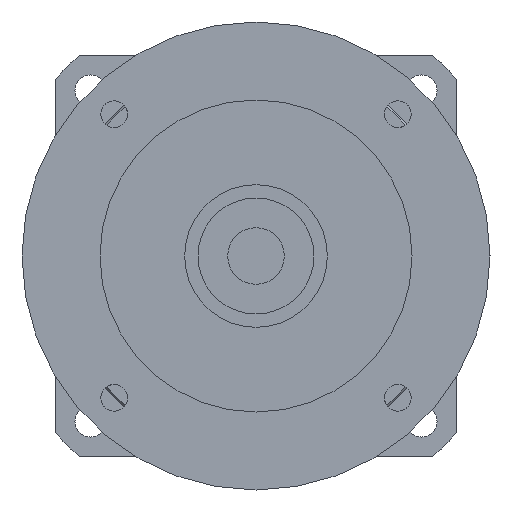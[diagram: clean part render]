
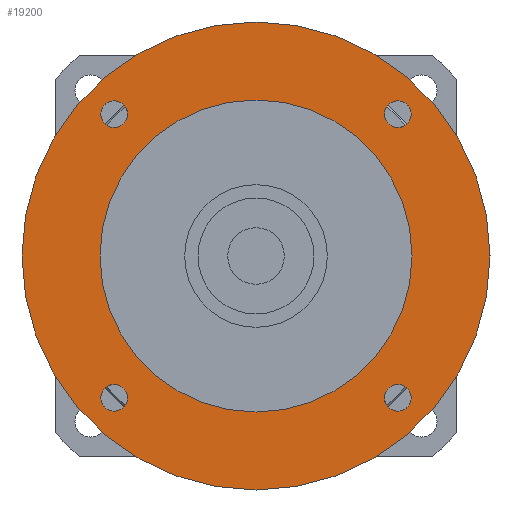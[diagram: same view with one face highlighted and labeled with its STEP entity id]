
A CAD part, left-side view. The second image highlights one B-rep face of the part: STEP entity #19200.
In plain terms, the highlighted planar face has unit normal (-1, 0, 0) as drawn and (0, 0, -1) by its records, which use the part's own axes.
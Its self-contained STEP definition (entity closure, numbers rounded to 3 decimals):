
#17780=CARTESIAN_POINT('',(31.82,-28.82,-124.));
#17790=VERTEX_POINT('',#17780);
#17960=CARTESIAN_POINT('',(31.82,-34.82,-124.));
#17970=VERTEX_POINT('',#17960);
#18000=CARTESIAN_POINT('',(31.82,-31.82,-124.));
#18010=DIRECTION('',(0.,0.,-1.));
#18020=DIRECTION('',(1.,0.,0.));
#18030=AXIS2_PLACEMENT_3D('',#18000,#18010,#18020);
#18040=CIRCLE('',#18030,3.);
#18050=CARTESIAN_POINT('',(34.82,-31.82,-124.));
#18060=VERTEX_POINT('',#18050);
#18070=EDGE_CURVE('',#18060,#17970,#18040,.T.);
#18090=EDGE_CURVE('',#17790,#18060,#18040,.T.);
#18140=CARTESIAN_POINT('',(0.,0.,
-124.));
#18150=DIRECTION('',(0.,0.,1.));
#18160=DIRECTION('',(-1.,0.,0.));
#18170=AXIS2_PLACEMENT_3D('',#18140,#18150,#18160);
#18180=PLANE('',#18170);
#18190=ORIENTED_EDGE('',*,*,#18070,.F.);
#18200=EDGE_CURVE('',#17970,#17790,#18040,.T.);
#18210=ORIENTED_EDGE('',*,*,#18200,.F.);
#18220=ORIENTED_EDGE('',*,*,#18090,.F.);
#18230=EDGE_LOOP('',(#18220,#18210,#18190));
#18240=FACE_BOUND('',#18230,.T.);
#18250=CARTESIAN_POINT('',(31.82,31.82,-124.));
#18260=DIRECTION('',(0.,0.,-1.));
#18270=DIRECTION('',(0.,1.,0.));
#18280=AXIS2_PLACEMENT_3D('',#18250,#18260,#18270);
#18290=CIRCLE('',#18280,3.);
#18300=CARTESIAN_POINT('',(31.82,34.82,-124.));
#18310=VERTEX_POINT('',#18300);
#18320=CARTESIAN_POINT('',(34.82,31.82,-124.));
#18330=VERTEX_POINT('',#18320);
#18340=EDGE_CURVE('',#18310,#18330,#18290,.T.);
#18350=ORIENTED_EDGE('',*,*,#18340,.F.);
#18360=CARTESIAN_POINT('',(28.82,31.82,-124.));
#18370=VERTEX_POINT('',#18360);
#18380=EDGE_CURVE('',#18330,#18370,#18290,.T.);
#18390=ORIENTED_EDGE('',*,*,#18380,.F.);
#18400=EDGE_CURVE('',#18370,#18310,#18290,.T.);
#18410=ORIENTED_EDGE('',*,*,#18400,.F.);
#18420=EDGE_LOOP('',(#18410,#18390,#18350));
#18430=FACE_BOUND('',#18420,.T.);
#18440=CARTESIAN_POINT('',(-31.82,31.82,-124.));
#18450=DIRECTION('',(0.,0.,-1.));
#18460=DIRECTION('',(-1.,0.,0.));
#18470=AXIS2_PLACEMENT_3D('',#18440,#18450,#18460);
#18480=CIRCLE('',#18470,3.);
#18490=CARTESIAN_POINT('',(-34.82,31.82,-124.));
#18500=VERTEX_POINT('',#18490);
#18510=CARTESIAN_POINT('',(-31.82,34.82,-124.));
#18520=VERTEX_POINT('',#18510);
#18530=EDGE_CURVE('',#18500,#18520,#18480,.T.);
#18540=ORIENTED_EDGE('',*,*,#18530,.F.);
#18550=CARTESIAN_POINT('',(-31.82,28.82,-124.));
#18560=VERTEX_POINT('',#18550);
#18570=EDGE_CURVE('',#18520,#18560,#18480,.T.);
#18580=ORIENTED_EDGE('',*,*,#18570,.F.);
#18590=EDGE_CURVE('',#18560,#18500,#18480,.T.);
#18600=ORIENTED_EDGE('',*,*,#18590,.F.);
#18610=EDGE_LOOP('',(#18600,#18580,#18540));
#18620=FACE_BOUND('',#18610,.T.);
#18630=CARTESIAN_POINT('',(-31.82,-31.82,-124.));
#18640=DIRECTION('',(0.,0.,-1.));
#18650=DIRECTION('',(0.,-1.,0.));
#18660=AXIS2_PLACEMENT_3D('',#18630,#18640,#18650);
#18670=CIRCLE('',#18660,3.);
#18680=CARTESIAN_POINT('',(-31.82,-34.82,-124.));
#18690=VERTEX_POINT('',#18680);
#18700=CARTESIAN_POINT('',(-34.82,-31.82,-124.));
#18710=VERTEX_POINT('',#18700);
#18720=EDGE_CURVE('',#18690,#18710,#18670,.T.);
#18730=ORIENTED_EDGE('',*,*,#18720,.F.);
#18740=CARTESIAN_POINT('',(-28.82,-31.82,-124.));
#18750=VERTEX_POINT('',#18740);
#18760=EDGE_CURVE('',#18710,#18750,#18670,.T.);
#18770=ORIENTED_EDGE('',*,*,#18760,.F.);
#18780=EDGE_CURVE('',#18750,#18690,#18670,.T.);
#18790=ORIENTED_EDGE('',*,*,#18780,.F.);
#18800=EDGE_LOOP('',(#18790,#18770,#18730));
#18810=FACE_BOUND('',#18800,.T.);
#18820=CARTESIAN_POINT('',(0.,0.,
-124.));
#18830=DIRECTION('',(0.,0.,1.));
#18840=DIRECTION('',(0.,-1.,0.));
#18850=AXIS2_PLACEMENT_3D('',#18820,#18830,#18840);
#18860=CIRCLE('',#18850,52.5);
#18870=CARTESIAN_POINT('',(0.,-52.5,-124.));
#18880=VERTEX_POINT('',#18870);
#18890=CARTESIAN_POINT('',(52.5,0.,-124.));
#18900=VERTEX_POINT('',#18890);
#18910=EDGE_CURVE('',#18880,#18900,#18860,.T.);
#18920=ORIENTED_EDGE('',*,*,#18910,.F.);
#18930=CARTESIAN_POINT('',(-52.5,0.,-124.));
#18940=VERTEX_POINT('',#18930);
#18950=EDGE_CURVE('',#18900,#18940,#18860,.T.);
#18960=ORIENTED_EDGE('',*,*,#18950,.F.);
#18970=EDGE_CURVE('',#18940,#18880,#18860,.T.);
#18980=ORIENTED_EDGE('',*,*,#18970,.F.);
#18990=EDGE_LOOP('',(#18980,#18960,#18920));
#19000=FACE_OUTER_BOUND('',#18990,.T.);
#19010=CARTESIAN_POINT('',(0.,0.,
-124.));
#19020=DIRECTION('',(0.,0.,1.));
#19030=DIRECTION('',(0.,-1.,0.));
#19040=AXIS2_PLACEMENT_3D('',#19010,#19020,#19030);
#19050=CIRCLE('',#19040,35.);
#19060=CARTESIAN_POINT('',(35.,0.,-124.));
#19070=VERTEX_POINT('',#19060);
#19080=CARTESIAN_POINT('',(-35.,0.,-124.));
#19090=VERTEX_POINT('',#19080);
#19100=EDGE_CURVE('',#19070,#19090,#19050,.T.);
#19110=ORIENTED_EDGE('',*,*,#19100,.T.);
#19120=CARTESIAN_POINT('',(0.,-35.,-124.));
#19130=VERTEX_POINT('',#19120);
#19140=EDGE_CURVE('',#19130,#19070,#19050,.T.);
#19150=ORIENTED_EDGE('',*,*,#19140,.T.);
#19160=EDGE_CURVE('',#19090,#19130,#19050,.T.);
#19170=ORIENTED_EDGE('',*,*,#19160,.T.);
#19180=EDGE_LOOP('',(#19170,#19150,#19110));
#19190=FACE_BOUND('',#19180,.T.);
#19200=ADVANCED_FACE('',(#18240,#18430,#18620,#18810,#19000,#19190),
#18180,.F.);
